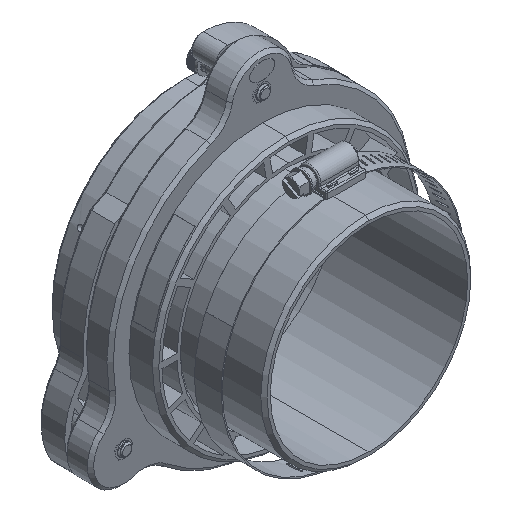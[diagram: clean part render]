
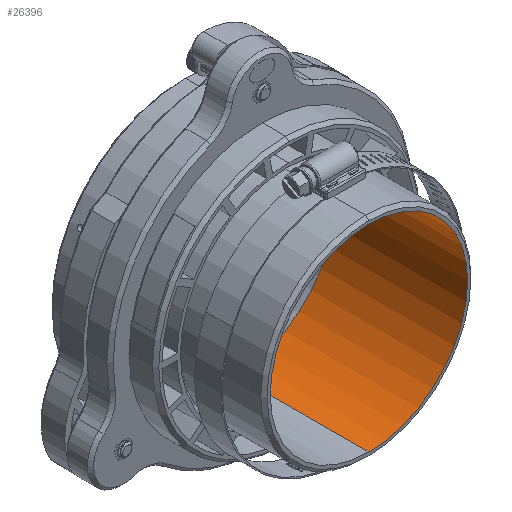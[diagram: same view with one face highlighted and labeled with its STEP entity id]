
A CAD part, isometric view. The second image highlights one B-rep face of the part: STEP entity #26396.
In plain terms, the highlighted cylindrical face has radius 47 mm (diameter 94 mm), a partial arc.
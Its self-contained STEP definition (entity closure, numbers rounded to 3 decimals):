
#303 = VECTOR ( 'NONE', #52289, 1000. ) ;
#1479 = DIRECTION ( 'NONE',  ( 0., -1., 0. ) ) ;
#2000 = DIRECTION ( 'NONE',  ( 0., 0., -1. ) ) ;
#2059 = DIRECTION ( 'NONE',  ( 0., 1., 0. ) ) ;
#4027 = CIRCLE ( 'NONE', #56806, 47. ) ;
#5410 = EDGE_CURVE ( 'NONE', #35711, #45767, #8161, .T. ) ;
#5980 = DIRECTION ( 'NONE',  ( 0., -1., 0. ) ) ;
#8161 = CIRCLE ( 'NONE', #36500, 47. ) ;
#9008 = ORIENTED_EDGE ( 'NONE', *, *, #49280, .F. ) ;
#14731 = AXIS2_PLACEMENT_3D ( 'NONE', #15466, #5980, #2000 ) ;
#15221 = CARTESIAN_POINT ( 'NONE',  ( 0., 63.5, 47. ) ) ;
#15466 = CARTESIAN_POINT ( 'NONE',  ( 0., 63.5, 0. ) ) ;
#15768 = CARTESIAN_POINT ( 'NONE',  ( 0., 63.5, 0. ) ) ;
#21811 = ORIENTED_EDGE ( 'NONE', *, *, #54608, .T. ) ;
#23561 = CARTESIAN_POINT ( 'NONE',  ( 0., 0., 47. ) ) ;
#25264 = DIRECTION ( 'NONE',  ( 0., 1., 0. ) ) ;
#26374 = EDGE_LOOP ( 'NONE', ( #21811, #44081, #30934, #9008 ) ) ;
#26396 = ADVANCED_FACE ( 'NONE', ( #33526 ), #39359, .F. ) ;
#29307 = CARTESIAN_POINT ( 'NONE',  ( 0., 0., 0. ) ) ;
#30934 = ORIENTED_EDGE ( 'NONE', *, *, #5410, .F. ) ;
#33526 = FACE_OUTER_BOUND ( 'NONE', #26374, .T. ) ;
#35711 = VERTEX_POINT ( 'NONE', #36376 ) ;
#36376 = CARTESIAN_POINT ( 'NONE',  ( 0., 0., -47. ) ) ;
#36500 = AXIS2_PLACEMENT_3D ( 'NONE', #29307, #2059, #53211 ) ;
#38499 = LINE ( 'NONE', #15221, #303 ) ;
#39072 = DIRECTION ( 'NONE',  ( 0., 0., 1. ) ) ;
#39359 = CYLINDRICAL_SURFACE ( 'NONE', #14731, 47. ) ;
#40060 = CARTESIAN_POINT ( 'NONE',  ( 0., 63.5, -47. ) ) ;
#44081 = ORIENTED_EDGE ( 'NONE', *, *, #47373, .T. ) ;
#45767 = VERTEX_POINT ( 'NONE', #23561 ) ;
#46634 = VERTEX_POINT ( 'NONE', #57929 ) ;
#47077 = CARTESIAN_POINT ( 'NONE',  ( 0., 63.5, -47. ) ) ;
#47373 = EDGE_CURVE ( 'NONE', #46634, #45767, #38499, .T. ) ;
#49280 = EDGE_CURVE ( 'NONE', #54174, #35711, #57515, .T. ) ;
#52289 = DIRECTION ( 'NONE',  ( 0., -1., 0. ) ) ;
#53211 = DIRECTION ( 'NONE',  ( 0., 0., 1. ) ) ;
#54174 = VERTEX_POINT ( 'NONE', #47077 ) ;
#54608 = EDGE_CURVE ( 'NONE', #54174, #46634, #4027, .T. ) ;
#56806 = AXIS2_PLACEMENT_3D ( 'NONE', #15768, #25264, #39072 ) ;
#57515 = LINE ( 'NONE', #40060, #59236 ) ;
#57929 = CARTESIAN_POINT ( 'NONE',  ( 0., 63.5, 47. ) ) ;
#59236 = VECTOR ( 'NONE', #1479, 1000. ) ;
